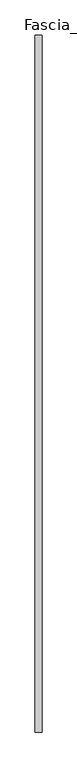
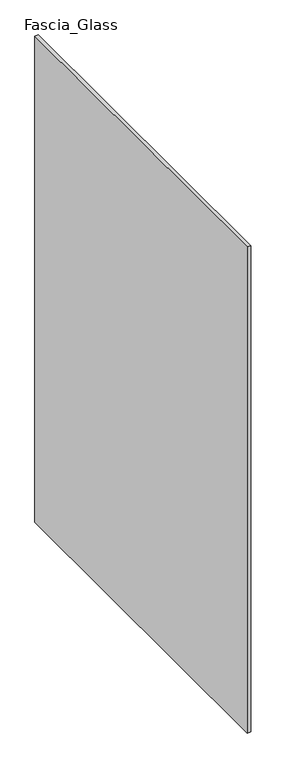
"""IFC4 building model written with IfcOpenShell, lengths in millimetres: railing geometry, Baluster-Excess-Fill-Straight-Panel-VIVA : Fascia_Glass."""

from ifc_helpers import new_model, si_unit, frame, origin, place, context, project, spatial, polyline, outline, extrude, source, transform, mapped, element, save


def fascia_glass_1f238249(model_context):
    return source(origin(), model_context, "Body", "SweptSolid", [
        extrude(outline(polyline([(36.7665, -1.0851207), (36.7665, -987.425), (27.2415, -987.425), (27.2415, -1.0851207), (36.7665, -1.0851207)])), frame((0.0, 0.0, -304.927), z_axis=(0.0, 0.0, 1.0), x_axis=(1.0, 0.0, 0.0)), (0.0, 0.0, 1.0), 1379.728),
    ])


if __name__ == "__main__":
    model = new_model("IFC4")
    model_context = context("Model", 3, world=origin())
    ifc_project = project(units=[si_unit("LENGTHUNIT", "METRE", prefix="MILLI")], contexts=[model_context])
    site = spatial("IfcSite", under=ifc_project)
    building = spatial("IfcBuilding", under=site)
    placement = place(None, origin())
    fascia_glass_shape = fascia_glass_1f238249(model_context)
    element("IfcRailing", 1, ObjectType="Baluster-Excess-Fill-Straight-Panel-VIVA : Fascia_Glass", at=placement, inside=building, context=model_context, shape_type="MappedRepresentation", body=[
        mapped(fascia_glass_shape, transform((0.0, 0.0, 0.0), x_axis=(1.0, 0.0, 0.0), y_axis=(0.0, 1.0, 0.0), z_axis=(0.0, 0.0, 1.0))),
    ])
    save(model, "model.ifc")
